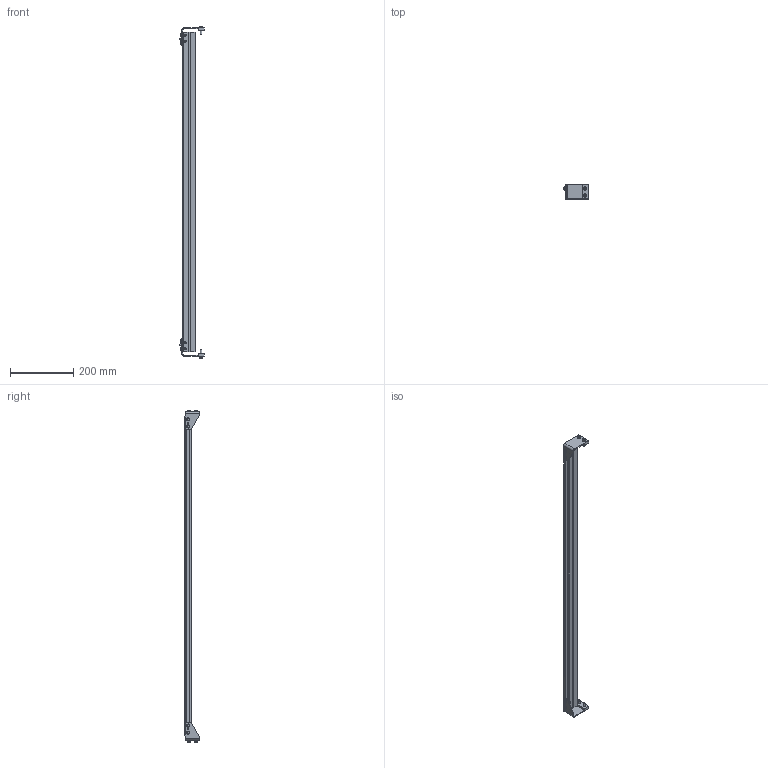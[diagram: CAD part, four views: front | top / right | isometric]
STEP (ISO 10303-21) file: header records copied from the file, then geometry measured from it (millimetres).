
FILE_DESCRIPTION((''),'2;1');
FILE_NAME('3076WWM_2_ASM','2023-03-15T',('jenni.wallner'),(''),'PRO/ENGINEER BY PARAMETRIC TECHNOLOGY CORPORATION, 2012420','PRO/ENGINEER BY PARAMETRIC TECHNOLOGY CORPORATION, 2012420','');
FILE_SCHEMA(('CONFIG_CONTROL_DESIGN'));
Length unit declared in the file: inch
Products named in the file (4): 677721_1; BRACKET_L; BRACKET_R; 3076WWM_2_ASM
Assembly tree (3 placements, depth 2):
  3076WWM_2_ASM
    677721_1
    BRACKET_L
    BRACKET_R
Bounding box: 76.2 x 46.13 x 1052.82 mm (x, y, z)
Volume: 456623.6 mm3; surface area: 274512.1 mm2
Topology: 3 solids, 3 shells, 296 faces, 730 edges, 476 vertices
Faces by surface type: plane 188, cylinder 76, cone 32
Entity records: 8834 total; most frequent: CARTESIAN_POINT 1525, DIRECTION 1512, ORIENTED_EDGE 1460, EDGE_CURVE 730, VECTOR 538, LINE 538, AXIS2_PLACEMENT_3D 487, VERTEX_POINT 476
